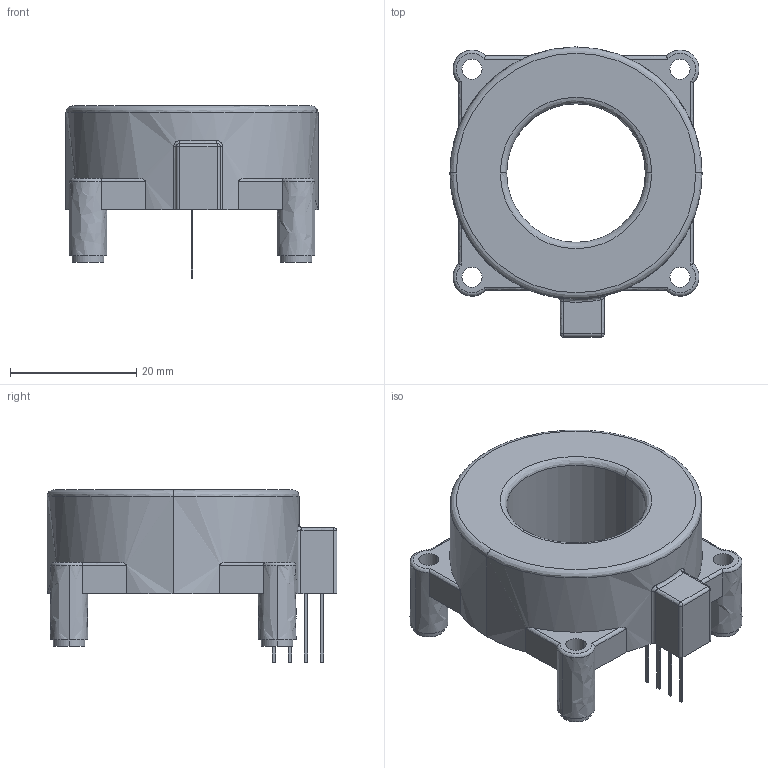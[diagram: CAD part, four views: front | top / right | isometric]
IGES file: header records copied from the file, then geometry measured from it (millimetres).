
Start section: Elysium IGES Interface
Global section: file name: 123HC:\Documents and Settings\tah\デスクトップ\BLACK_BOX\HTFS\HTFS_XXX-P_SP3 series_blackbox\HTFS_XXX-P_SP3 series_blackbox.igs; native system: CoCreate Modeling 17.00A  17-Jun-2010; preprocessor: CoCreate IGES_3D V2.2; author: Unknown; organization: Unknown; date: 20131018.202603; units: millimetre
Bounding box: 40 x 46 x 27.3 mm (x, y, z)
Volume: 15718.4 mm3; surface area: 6936.6 mm2
Topology: 1 solids, 1 shells, 132 faces, 328 edges, 206 vertices
Faces by surface type: bspline 132
